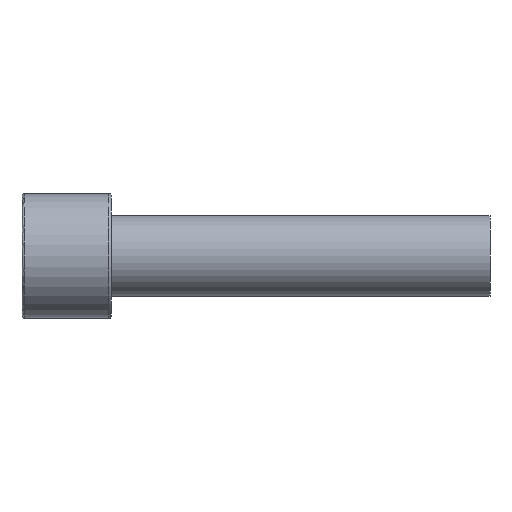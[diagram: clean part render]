
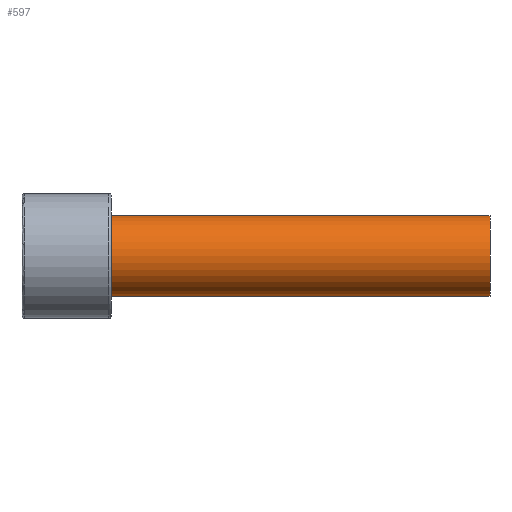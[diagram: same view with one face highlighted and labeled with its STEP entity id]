
A CAD part, front view. The second image highlights one B-rep face of the part: STEP entity #597.
In plain terms, the highlighted cylindrical face has radius 9 mm (diameter 18 mm), a partial arc.
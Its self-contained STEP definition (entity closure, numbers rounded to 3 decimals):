
#431=CARTESIAN_POINT('Vertex',(105.,0.,9.)) ;
#434=CARTESIAN_POINT('Axis2P3D Location',(105.,0.,0.)) ;
#438=CARTESIAN_POINT('Vertex',(105.,-9.,0.)) ;
#441=CARTESIAN_POINT('Axis2P3D Location',(105.,0.,0.)) ;
#445=CARTESIAN_POINT('Vertex',(105.,0.,-9.)) ;
#537=CARTESIAN_POINT('Line Origine',(105.,0.,9.)) ;
#541=CARTESIAN_POINT('Vertex',(20.,0.,9.)) ;
#544=CARTESIAN_POINT('Line Origine',(105.,0.,-9.)) ;
#548=CARTESIAN_POINT('Vertex',(20.,0.,-9.)) ;
#572=CARTESIAN_POINT('Axis2P3D Location',(105.,0.,0.)) ;
#577=CARTESIAN_POINT('Axis2P3D Location',(20.,0.,0.)) ;
#581=CARTESIAN_POINT('Vertex',(20.,-9.,0.)) ;
#584=CARTESIAN_POINT('Axis2P3D Location',(20.,0.,0.)) ;
#435=DIRECTION('Axis2P3D Direction',(1.,0.,-0.)) ;
#442=DIRECTION('Axis2P3D Direction',(1.,0.,-0.)) ;
#538=DIRECTION('Vector Direction',(-1.,0.,0.)) ;
#545=DIRECTION('Vector Direction',(-1.,0.,0.)) ;
#573=DIRECTION('Axis2P3D Direction',(-1.,-0.,-0.)) ;
#574=DIRECTION('Axis2P3D XDirection',(0.,0.,-1.)) ;
#578=DIRECTION('Axis2P3D Direction',(-1.,-0.,-0.)) ;
#585=DIRECTION('Axis2P3D Direction',(-1.,-0.,-0.)) ;
#436=AXIS2_PLACEMENT_3D('Circle Axis2P3D',#434,#435,$) ;
#443=AXIS2_PLACEMENT_3D('Circle Axis2P3D',#441,#442,$) ;
#575=AXIS2_PLACEMENT_3D('Cylinder Axis2P3D',#572,#573,#574) ;
#579=AXIS2_PLACEMENT_3D('Circle Axis2P3D',#577,#578,$) ;
#586=AXIS2_PLACEMENT_3D('Circle Axis2P3D',#584,#585,$) ;
#590=ORIENTED_EDGE('',*,*,#550,.T.) ;
#591=ORIENTED_EDGE('',*,*,#447,.F.) ;
#592=ORIENTED_EDGE('',*,*,#440,.F.) ;
#593=ORIENTED_EDGE('',*,*,#543,.T.) ;
#594=ORIENTED_EDGE('',*,*,#583,.T.) ;
#595=ORIENTED_EDGE('',*,*,#588,.T.) ;
#539=VECTOR('Line Direction',#538,1.) ;
#546=VECTOR('Line Direction',#545,1.) ;
#597=ADVANCED_FACE('367F-18X105',(#596),#576,.T.) ;
#437=CIRCLE('generated circle',#436,9.) ;
#444=CIRCLE('generated circle',#443,9.) ;
#580=CIRCLE('generated circle',#579,9.) ;
#587=CIRCLE('generated circle',#586,9.) ;
#576=CYLINDRICAL_SURFACE('generated cylinder',#575,9.) ;
#440=EDGE_CURVE('',#432,#439,#437,.T.) ;
#447=EDGE_CURVE('',#439,#446,#444,.T.) ;
#543=EDGE_CURVE('',#432,#542,#540,.T.) ;
#550=EDGE_CURVE('',#549,#446,#547,.F.) ;
#583=EDGE_CURVE('',#542,#582,#580,.F.) ;
#588=EDGE_CURVE('',#582,#549,#587,.F.) ;
#589=EDGE_LOOP('',(#590,#591,#592,#593,#594,#595)) ;
#596=FACE_OUTER_BOUND('',#589,.T.) ;
#540=LINE('Line',#537,#539) ;
#547=LINE('Line',#544,#546) ;
#432=VERTEX_POINT('',#431) ;
#439=VERTEX_POINT('',#438) ;
#446=VERTEX_POINT('',#445) ;
#542=VERTEX_POINT('',#541) ;
#549=VERTEX_POINT('',#548) ;
#582=VERTEX_POINT('',#581) ;
